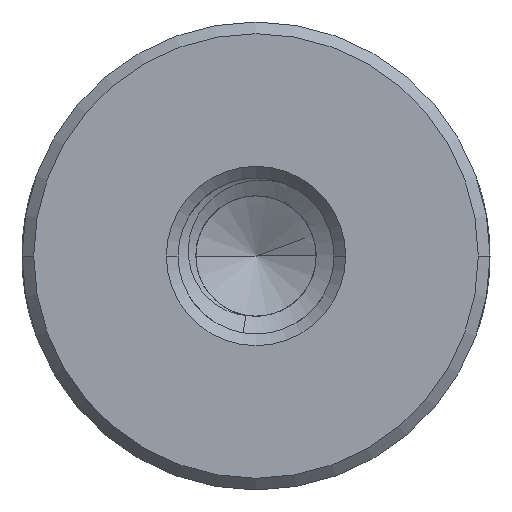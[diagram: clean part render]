
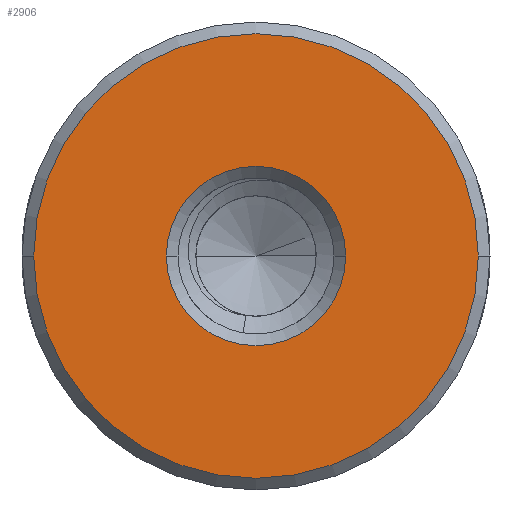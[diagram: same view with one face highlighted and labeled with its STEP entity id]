
A CAD part, front view. The second image highlights one B-rep face of the part: STEP entity #2906.
In plain terms, the highlighted planar face has unit normal (0, -1, 0).
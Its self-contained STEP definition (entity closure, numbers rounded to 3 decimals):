
#1=CARTESIAN_POINT('',(0.,-10.,0.));
#2=DIRECTION('',(0.,-1.,0.));
#3=DIRECTION('',(-1.,0.,0.));
#4=AXIS2_PLACEMENT_3D('',#1,#2,#3);
#6=CARTESIAN_POINT('',(0.,-10.,0.));
#7=DIRECTION('',(0.,-1.,0.));
#8=DIRECTION('',(1.,0.,0.));
#9=AXIS2_PLACEMENT_3D('',#6,#7,#8);
#11=CARTESIAN_POINT('',(0.,-10.,0.));
#12=DIRECTION('',(0.,1.,0.));
#13=DIRECTION('',(-1.,0.,0.));
#14=AXIS2_PLACEMENT_3D('',#11,#12,#13);
#16=CARTESIAN_POINT('',(0.,-10.,0.));
#17=DIRECTION('',(0.,1.,0.));
#18=DIRECTION('',(1.,0.,0.));
#19=AXIS2_PLACEMENT_3D('',#16,#17,#18);
#2749=CARTESIAN_POINT('',(-5.7,-10.,0.));
#2750=CARTESIAN_POINT('',(5.7,-10.,0.));
#2751=VERTEX_POINT('',#2749);
#2752=VERTEX_POINT('',#2750);
#2859=CARTESIAN_POINT('',(-2.3,-10.,0.));
#2860=CARTESIAN_POINT('',(2.3,-10.,0.));
#2861=VERTEX_POINT('',#2859);
#2862=VERTEX_POINT('',#2860);
#2889=CARTESIAN_POINT('',(0.,-10.,0.));
#2890=DIRECTION('',(0.,1.,0.));
#2891=DIRECTION('',(1.,0.,0.));
#2892=AXIS2_PLACEMENT_3D('',#2889,#2890,#2891);
#2893=PLANE('',#2892);
#2895=ORIENTED_EDGE('',*,*,#2894,.F.);
#2897=ORIENTED_EDGE('',*,*,#2896,.F.);
#2898=EDGE_LOOP('',(#2895,#2897));
#2899=FACE_OUTER_BOUND('',#2898,.F.);
#2901=ORIENTED_EDGE('',*,*,#2900,.F.);
#2903=ORIENTED_EDGE('',*,*,#2902,.F.);
#2904=EDGE_LOOP('',(#2901,#2903));
#2905=FACE_BOUND('',#2904,.F.);
#2906=ADVANCED_FACE('',(#2899,#2905),#2893,.F.);
#5=CIRCLE('',#4,5.7);
#10=CIRCLE('',#9,5.7);
#15=CIRCLE('',#14,2.3);
#20=CIRCLE('',#19,2.3);
#2894=EDGE_CURVE('',#2751,#2752,#5,.T.);
#2896=EDGE_CURVE('',#2752,#2751,#10,.T.);
#2900=EDGE_CURVE('',#2861,#2862,#15,.T.);
#2902=EDGE_CURVE('',#2862,#2861,#20,.T.);
